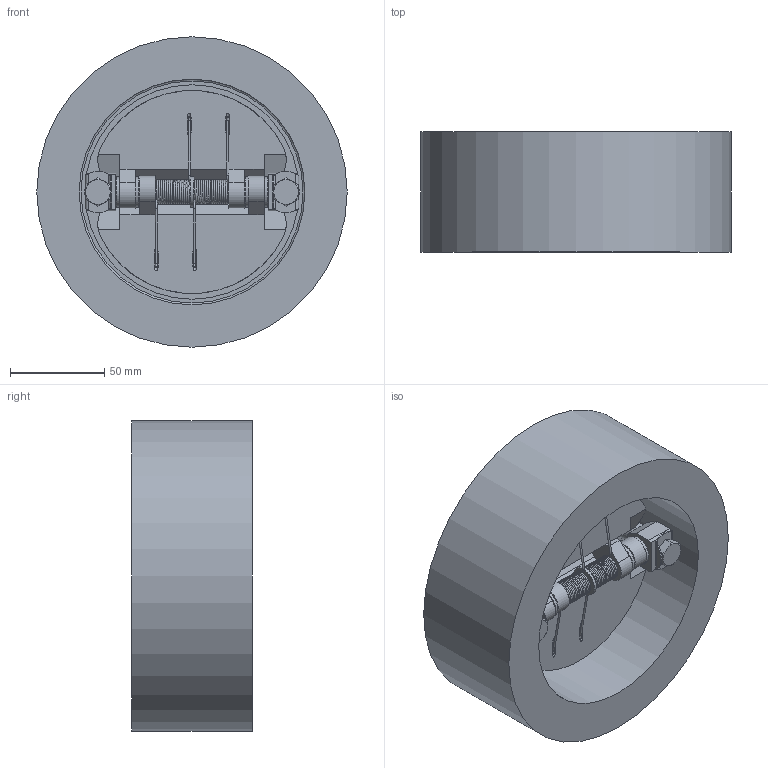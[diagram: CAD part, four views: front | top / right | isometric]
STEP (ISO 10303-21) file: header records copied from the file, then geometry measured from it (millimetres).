
FILE_DESCRIPTION(/* description */ (''),/* implementation_level */ '2;1');
FILE_NAME(/* name */ 'E:\WorkSpace\Designs\1700\1700080.stp',/* time_stamp */ '2022-08-05T09:45:08+02:00',/* author */ ('JJ'),/* organization */ (''),/* preprocessor_version */ 'ST-DEVELOPER v18.1',/* originating_system */ 'Autodesk Inventor 2022',/* authorisation */ '0 mm^3');
FILE_SCHEMA (('AUTOMOTIVE_DESIGN { 1 0 10303 214 3 1 1 }'));
Length unit declared in the file: millimetre
Products named in the file (1): 1700080
Bounding box: 165 x 64 x 165 mm (x, y, z)
Volume: 914023.7 mm3; surface area: 128787.9 mm2
Topology: 8 solids, 13 shells, 307 faces, 750 edges, 478 vertices
Faces by surface type: plane 157, cylinder 96, cone 23, torus 19, bspline 12
Full cylindrical faces by diameter (mm): 1 x4, 6.647 x3, 8 x8, 8.4 x7, 11.6 x2, 12 x2, 16 x5, 114 x1, 120 x1, 165 x1
Entity records: 16568 total; most frequent: CARTESIAN_POINT 8882, DIRECTION 1521, ORIENTED_EDGE 1512, EDGE_CURVE 756, AXIS2_PLACEMENT_3D 571, VERTEX_POINT 488, LINE 379, VECTOR 379
